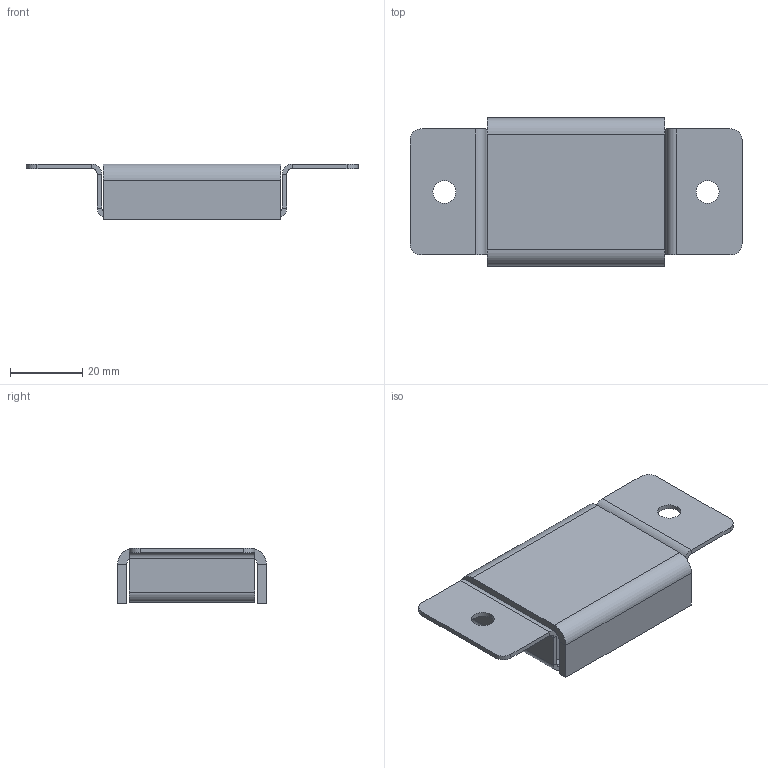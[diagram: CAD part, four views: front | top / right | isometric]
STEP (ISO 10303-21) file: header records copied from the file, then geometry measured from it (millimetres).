
FILE_DESCRIPTION (( 'STEP AP203' ), '1' );
FILE_NAME ('SS2100.STEP', '2018-07-27T17:30:07', ( '' ), ( '' ), 'SwSTEP 2.0', 'SolidWorks 2015', '' );
FILE_SCHEMA (( 'CONFIG_CONTROL_DESIGN' ));
Length unit declared in the file: inch
Products named in the file (1): SS2100
Bounding box: 92.07 x 41.27 x 15.49 mm (x, y, z)
Volume: 28462.3 mm3; surface area: 19928.4 mm2
Topology: 3 solids, 3 shells, 74 faces, 156 edges, 88 vertices
Faces by surface type: plane 54, cylinder 20
Entity records: 1999 total; most frequent: DIRECTION 346, CARTESIAN_POINT 319, ORIENTED_EDGE 312, EDGE_CURVE 156, VECTOR 116, LINE 116, AXIS2_PLACEMENT_3D 115, VERTEX_POINT 88
